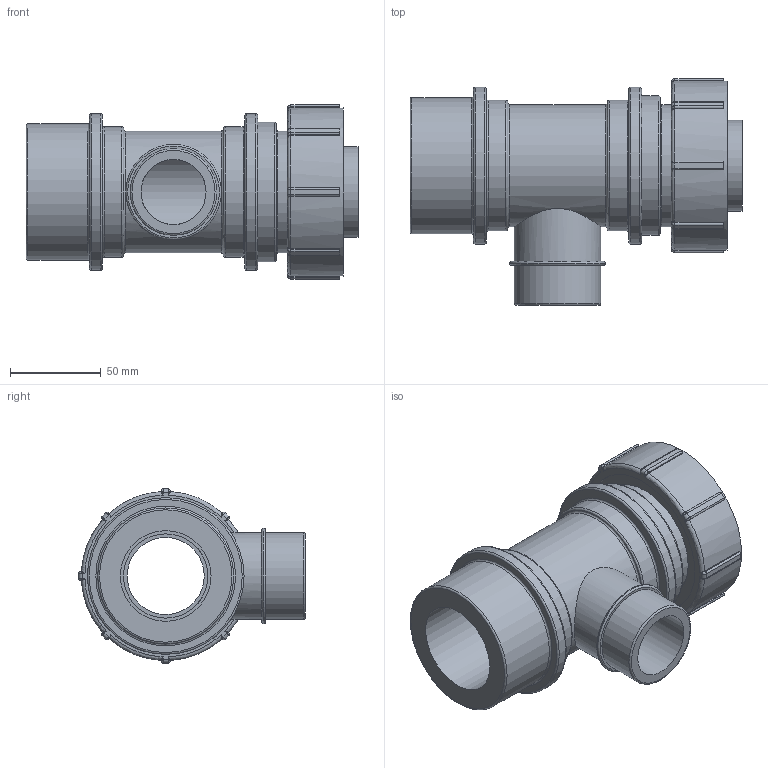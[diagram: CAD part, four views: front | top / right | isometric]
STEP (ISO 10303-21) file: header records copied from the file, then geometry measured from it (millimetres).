
FILE_DESCRIPTION(/* description */ ('PLASSON MODULAR MALE TEE 50-1.1/2"-50'),/* implementation_level */ '2;1');
FILE_NAME(/* name */ 'C:\Dropbox\KIMPROJECTS-Inventor\99-16-3568-Processing\Silver+MF ISRAEL\0784L6\0784L60500150A.ipt.stp',/* time_stamp */ '2018-04-09T13:01:20+03:00',/* author */ ('KIM'),/* organization */ (''),/* preprocessor_version */ 'ST-DEVELOPER v15.6',/* originating_system */ 'Autodesk Inventor 2015',/* authorisation */ '');
FILE_SCHEMA (('AUTOMOTIVE_DESIGN { 1 0 10303 214 3 1 1 }'));
Length unit declared in the file: millimetre
Products named in the file (1): 0784L60500150A
Bounding box: 183 x 125 x 96 mm (x, y, z)
Volume: 526054 mm3; surface area: 102689.5 mm2
Topology: 1 solids, 1 shells, 166 faces, 382 edges, 234 vertices
Faces by surface type: cylinder 59, plane 50, bspline 32, torus 25
Full cylindrical faces by diameter (mm): 35.852 x1, 42.5 x1, 46.5 x1, 47.803 x2, 50 x2, 52.583 x1, 67.2 x2, 72 x2, 75 x1, 76.8 x1, 81.6 x1, 86.4 x2, 88.32 x1, 93.12 x1
Entity records: 4976 total; most frequent: CARTESIAN_POINT 1429, DIRECTION 750, ORIENTED_EDGE 684, EDGE_CURVE 342, AXIS2_PLACEMENT_3D 323, VERTEX_POINT 230, EDGE_LOOP 222, CIRCLE 188
